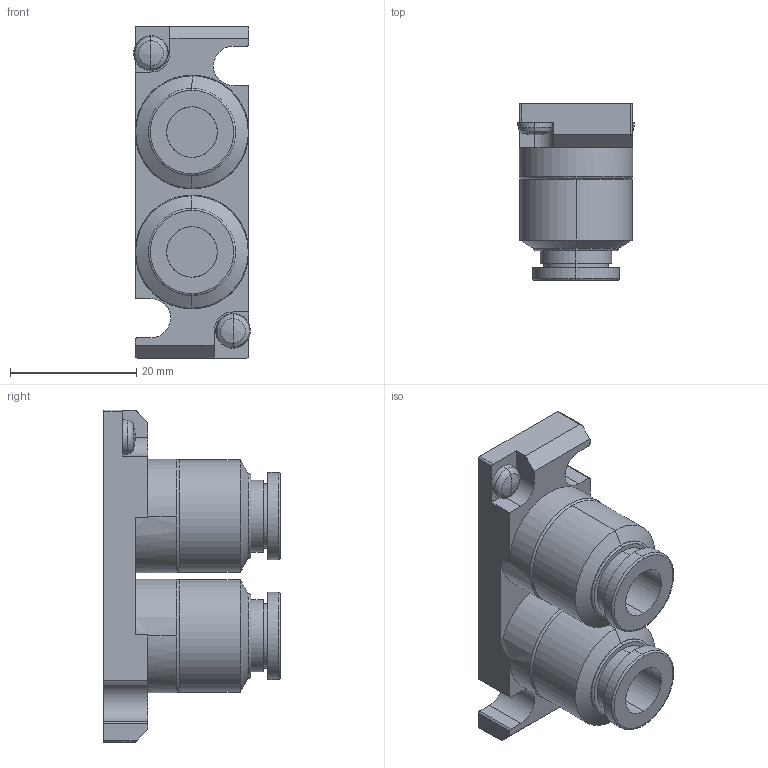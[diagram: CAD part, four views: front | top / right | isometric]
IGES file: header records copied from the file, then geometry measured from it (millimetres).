
Start section: ------------------------------------------------------------------------
Global section: file name: D:\ICADMX\tmp\trans3d_spg\CVICAD02.6676.F15_Port-PJ5_16564.igs; native system: spGate; preprocessor: ver12.6.6; author: Unknown; organization: Unknown; date: 210712.184738; units: millimetre
Bounding box: 18.5 x 28 x 52.6 mm (x, y, z)
Volume: 13205.3 mm3; surface area: 6099 mm2
Topology: 1 solids, 1 shells, 104 faces, 254 edges, 158 vertices
Faces by surface type: bspline 104
